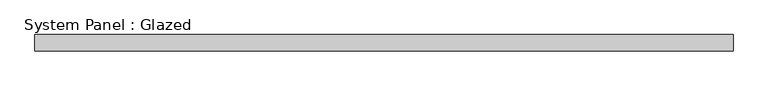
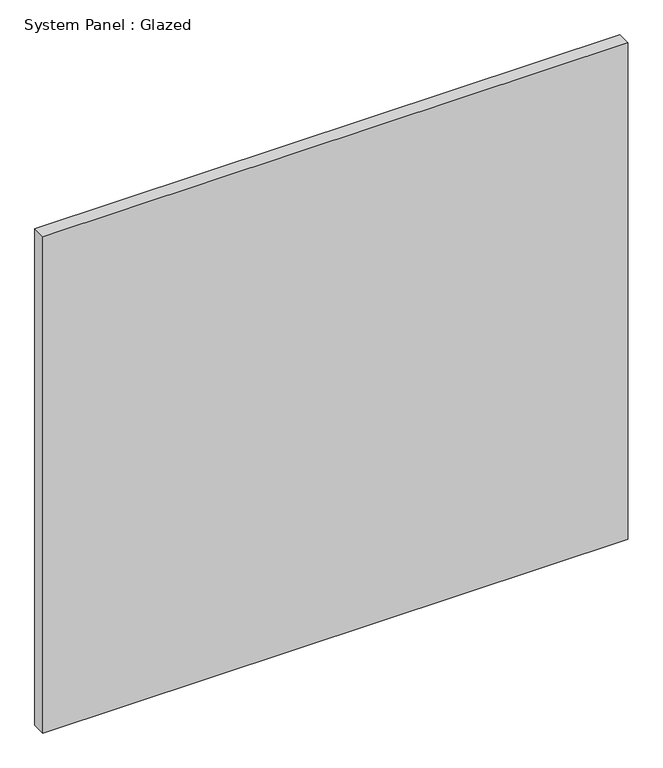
"""IFC4 building model written with IfcOpenShell, lengths in millimetres: plate geometry, System Panel : Glazed."""

from ifc_helpers import new_model, si_unit, origin, origin_with_axes, place, context, project, spatial, polyline, outline, extrude, source, transform, mapped, element, save


def system_panel_glazed_aee83116(model_context):
    return source(origin(), model_context, "Body", "SweptSolid", [
        extrude(outline(polyline([(546.4175, -44.45), (-546.4175, -44.45), (-546.4175, -19.05), (546.4175, -19.05), (546.4175, -44.45)])), origin_with_axes(), (0.0, 0.0, 1.0), 979.9108166),
    ])


if __name__ == "__main__":
    model = new_model("IFC4")
    model_context = context("Model", 3, world=origin())
    ifc_project = project(units=[si_unit("LENGTHUNIT", "METRE", prefix="MILLI")], contexts=[model_context])
    site = spatial("IfcSite", under=ifc_project)
    building = spatial("IfcBuilding", under=site)
    placement = place(None, origin())
    system_panel_glazed_shape = system_panel_glazed_aee83116(model_context)
    element("IfcPlate", 1, ObjectType="System Panel : Glazed", at=placement, inside=building, context=model_context, shape_type="MappedRepresentation", body=[
        mapped(system_panel_glazed_shape, transform((0.0, 0.0, 0.0), x_axis=(1.0, 0.0, 0.0), y_axis=(0.0, 1.0, 0.0), z_axis=(0.0, 0.0, 1.0))),
    ])
    save(model, "model.ifc")
